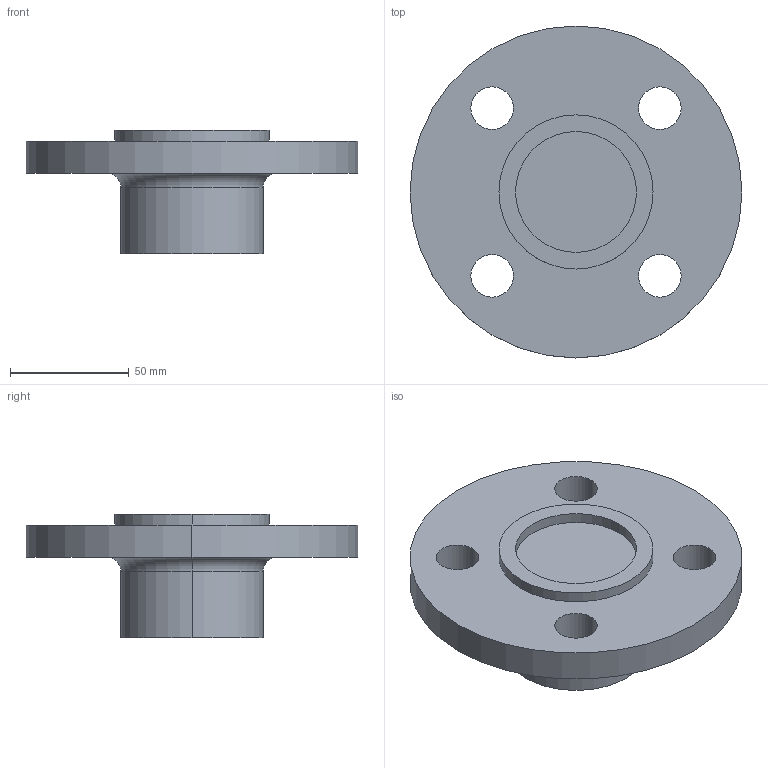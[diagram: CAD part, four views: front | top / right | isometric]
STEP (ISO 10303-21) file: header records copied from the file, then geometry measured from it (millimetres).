
FILE_DESCRIPTION (( 'STEP AP214' ), '1' );
FILE_NAME ('PN40 DN32 Type 21(i) - Type C Face.STEP', '2018-12-29T23:48:58', ( '' ), ( '' ), 'SwSTEP 2.0', 'SolidWorks 2019', '' );
FILE_SCHEMA (( 'AUTOMOTIVE_DESIGN' ));
Length unit declared in the file: millimetre
Products named in the file (1): PN40 DN32 Type 21(i) - Type C Face
Bounding box: 140 x 140 x 52 mm (x, y, z)
Volume: 297468.8 mm3; surface area: 45322.5 mm2
Topology: 1 solids, 1 shells, 23 faces, 52 edges, 34 vertices
Faces by surface type: cylinder 16, plane 5, torus 2
Entity records: 716 total; most frequent: DIRECTION 136, CARTESIAN_POINT 110, ORIENTED_EDGE 104, AXIS2_PLACEMENT_3D 60, EDGE_CURVE 52, CIRCLE 36, EDGE_LOOP 34, VERTEX_POINT 34
